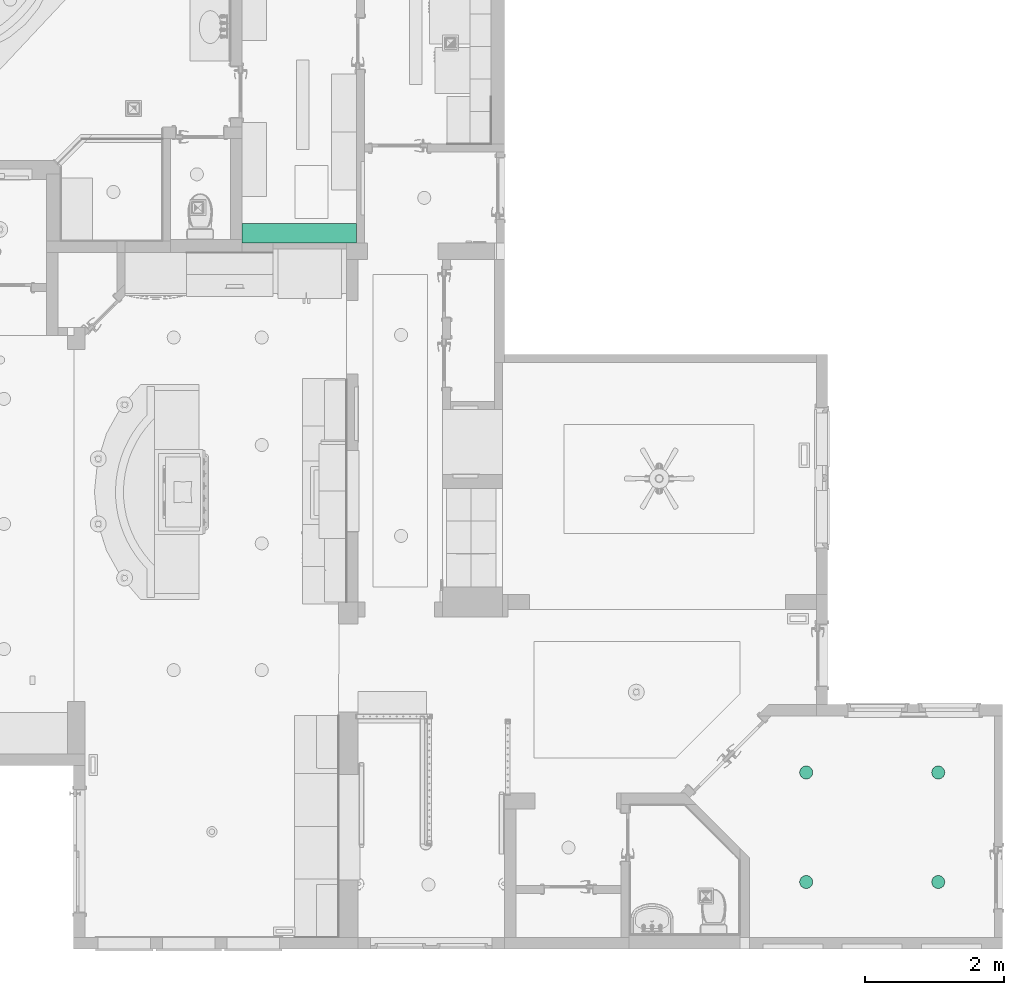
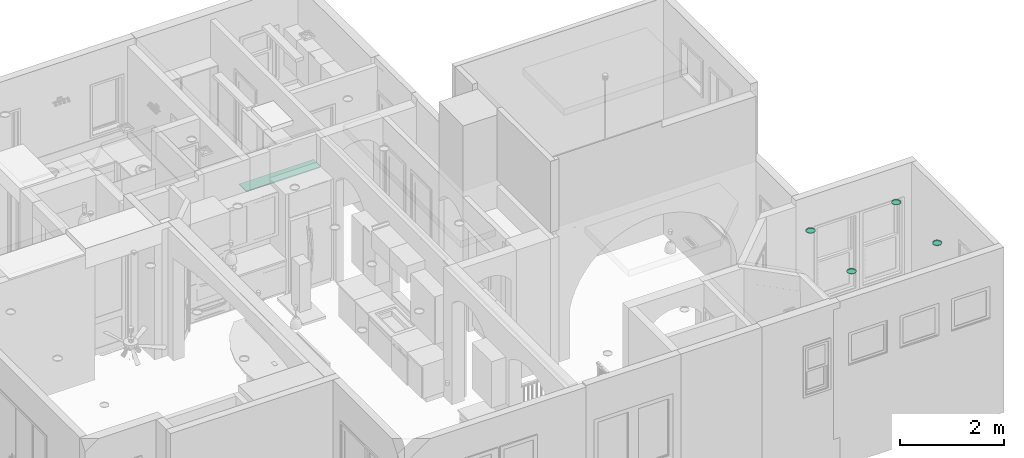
# One storey, part 51 of 77: 5 flow terminals.
"""IFC2X3 building model written with IfcOpenShell, lengths in inches."""

from ifc_helpers import new_model, entity, si_unit, converted_unit, derived_unit, money_unit, direction, frame, origin_with_axes, place, context, subcontext, project, spatial, open_shell, faceted_brep, surface_model, source, transform, mapped, type_object, element, save


model = new_model("IFC2X3")

# Units and contexts
model_context = context("Model", 3, precision=0.000393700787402, world=origin_with_axes(), true_north=direction((0.0, 1.0)))
body_context = subcontext(model_context, "Body", "Model", "MODEL_VIEW")
ifc_project = project(units=[converted_unit("LENGTHUNIT", "INCH", entity("IfcPositiveLengthMeasure", 0.0254), si_unit("LENGTHUNIT", "METRE"), dimensions=[1, 0, 0, 0, 0, 0, 0]), converted_unit("AREAUNIT", "SQUARE_FOOT", entity("IfcPositiveLengthMeasure", 0.09290304), si_unit("AREAUNIT", "SQUARE_METRE"), dimensions=[2, 0, 0, 0, 0, 0, 0]), si_unit("PLANEANGLEUNIT", "RADIAN"), si_unit("SOLIDANGLEUNIT", "STERADIAN"), money_unit("USD"), converted_unit("TIMEUNIT", "Year", entity("IfcTimeMeasure", 31556926.0), si_unit("TIMEUNIT", "SECOND"), dimensions=[0, 0, 1, 0, 0, 0, 0]), si_unit("MASSUNIT", "GRAM", prefix="KILO"), si_unit("THERMODYNAMICTEMPERATUREUNIT", "DEGREE_CELSIUS"), si_unit("LUMINOUSINTENSITYUNIT", "LUMEN"), si_unit("ENERGYUNIT", "JOULE", prefix="MEGA"), derived_unit("THERMALCONDUCTANCEUNIT", [(si_unit("POWERUNIT", "WATT"), 1), (si_unit("LENGTHUNIT", "METRE"), -1), (si_unit("THERMODYNAMICTEMPERATUREUNIT", "KELVIN"), -1)]), derived_unit("SPECIFICHEATCAPACITYUNIT", [(si_unit("ENERGYUNIT", "JOULE"), 1), (si_unit("MASSUNIT", "GRAM", prefix="KILO"), -1), (si_unit("THERMODYNAMICTEMPERATUREUNIT", "KELVIN"), -1)]), derived_unit("MASSDENSITYUNIT", [(si_unit("MASSUNIT", "GRAM", prefix="KILO"), 1), (si_unit("VOLUMEUNIT", "CUBIC_METRE"), -1)])], contexts=[model_context])

# Site, building, storey
site_placement = place(None, origin_with_axes())
site = spatial("IfcSite", under=ifc_project, at=site_placement, Name="Site", CompositionType="ELEMENT")
building_placement = place(site_placement, origin_with_axes())
building = spatial("IfcBuilding", under=site, at=building_placement, Name="Building", CompositionType="ELEMENT")
storey_placement = place(building_placement, frame((0.0, 0.0, 127.952755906), z_axis=(0.0, 0.0, 1.0), x_axis=(1.0, 0.0, 0.0)))
storey = spatial("IfcBuildingStorey", under=building, at=storey_placement, Name="Second Floor", CompositionType="ELEMENT", Elevation=127.953)

# Flow terminals
light_fixture_type = type_object("IfcLightFixtureType", Name="Recessed Spot 25", PredefinedType="NOTDEFINED")
shared_shape = source(origin_with_axes(), body_context, "Body", "SurfaceModel", [
    faceted_brep([(3.74015748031, 0.0, -0.590551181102), (3.51459838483, 1.27920919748, -0.590551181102), (3.51459838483, 1.27920919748, 0.0), (3.74015748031, 0.0, 0.0), (3.51459838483, -1.27920919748, -0.590551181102), (2.86512685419, -2.40412688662, -0.590551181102), (1.87007874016, -3.23907139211, -0.590551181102), (0.649471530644, -3.6833360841, -0.590551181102), (-0.649471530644, -3.6833360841, -0.590551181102), (-1.87007874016, -3.23907139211, -0.590551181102), (-2.86512685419, -2.40412688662, -0.590551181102), (-3.51459838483, -1.27920919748, -0.590551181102), (-3.74015748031, 0.0, -0.590551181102), (-3.51459838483, 1.27920919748, -0.590551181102), (-2.86512685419, 2.40412688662, -0.590551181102), (-1.87007874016, 3.23907139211, -0.590551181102), (-0.649471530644, 3.6833360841, -0.590551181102), (0.649471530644, 3.6833360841, -0.590551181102), (1.87007874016, 3.23907139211, -0.590551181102), (2.86512685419, 2.40412688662, -0.590551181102), (3.14960629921, 0.0, -0.590551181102), (2.95966179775, 1.07722879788, -0.590551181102), (2.41273840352, 2.02452790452, -0.590551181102), (1.57480314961, 2.72763906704, -0.590551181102), (0.546923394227, 3.1017567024, -0.590551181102), (-0.546923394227, 3.1017567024, -0.590551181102), (-1.57480314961, 2.72763906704, -0.590551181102), (-2.41273840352, 2.02452790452, -0.590551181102), (-2.95966179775, 1.07722879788, -0.590551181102), (-3.14960629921, 0.0, -0.590551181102), (-2.95966179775, -1.07722879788, -0.590551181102), (-2.41273840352, -2.02452790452, -0.590551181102), (-1.57480314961, -2.72763906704, -0.590551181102), (-0.546923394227, -3.1017567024, -0.590551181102), (0.546923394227, -3.1017567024, -0.590551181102), (1.57480314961, -2.72763906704, -0.590551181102), (2.41273840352, -2.02452790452, -0.590551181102), (2.95966179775, -1.07722879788, -0.590551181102), (2.86512685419, 2.40412688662, 0.0), (1.87007874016, 3.23907139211, 0.0), (0.649471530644, 3.6833360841, 0.0), (-0.649471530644, 3.6833360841, 0.0), (-1.87007874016, 3.23907139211, 0.0), (-2.86512685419, 2.40412688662, 0.0), (-3.51459838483, 1.27920919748, 0.0), (-3.74015748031, 0.0, 0.0), (-3.51459838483, -1.27920919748, 0.0), (-2.86512685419, -2.40412688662, 0.0), (-1.87007874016, -3.23907139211, 0.0), (-0.649471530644, -3.6833360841, 0.0), (0.649471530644, -3.6833360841, 0.0), (1.87007874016, -3.23907139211, 0.0), (2.86512685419, -2.40412688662, 0.0), (3.51459838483, -1.27920919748, 0.0), (3.14960629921, 0.0, 0.0), (2.95966179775, -1.07722879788, 0.0), (2.41273840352, -2.02452790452, 0.0), (1.57480314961, -2.72763906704, 0.0), (0.546923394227, -3.1017567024, 0.0), (-0.546923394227, -3.1017567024, 0.0), (-1.57480314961, -2.72763906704, 0.0), (-2.41273840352, -2.02452790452, 0.0), (-2.95966179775, -1.07722879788, 0.0), (-3.14960629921, 0.0, 0.0), (-2.95966179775, 1.07722879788, 0.0), (-2.41273840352, 2.02452790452, 0.0), (-1.57480314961, 2.72763906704, 0.0), (-0.546923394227, 3.1017567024, 0.0), (0.546923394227, 3.1017567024, 0.0), (1.57480314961, 2.72763906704, 0.0), (2.41273840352, 2.02452790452, 0.0), (2.95966179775, 1.07722879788, 0.0)], [[[0, 1, 2, 3]], [[0, 4, 5, 6, 7, 8, 9, 10, 11, 12, 13, 14, 15, 16, 17, 18, 19, 1], [20, 21, 22, 23, 24, 25, 26, 27, 28, 29, 30, 31, 32, 33, 34, 35, 36, 37]], [[1, 19, 38, 2]], [[3, 2, 38, 39, 40, 41, 42, 43, 44, 45, 46, 47, 48, 49, 50, 51, 52, 53], [54, 55, 56, 57, 58, 59, 60, 61, 62, 63, 64, 65, 66, 67, 68, 69, 70, 71]], [[4, 0, 3, 53]], [[5, 4, 53, 52]], [[6, 5, 52, 51]], [[7, 6, 51, 50]], [[8, 7, 50, 49]], [[9, 8, 49, 48]], [[10, 9, 48, 47]], [[11, 10, 47, 46]], [[12, 11, 46, 45]], [[13, 12, 45, 44]], [[14, 13, 44, 43]], [[15, 14, 43, 42]], [[16, 15, 42, 41]], [[17, 16, 41, 40]], [[18, 17, 40, 39]], [[19, 18, 39, 38]], [[21, 20, 54, 71]], [[22, 21, 71, 70]], [[23, 22, 70, 69]], [[24, 23, 69, 68]], [[25, 24, 68, 67]], [[26, 25, 67, 66]], [[27, 26, 66, 65]], [[28, 27, 65, 64]], [[29, 28, 64, 63]], [[30, 29, 63, 62]], [[31, 30, 62, 61]], [[32, 31, 61, 60]], [[33, 32, 60, 59]], [[34, 33, 59, 58]], [[35, 34, 58, 57]], [[36, 35, 57, 56]], [[37, 36, 56, 55]], [[20, 37, 55, 54]]]),
    surface_model("IfcShellBasedSurfaceModel", [(3.14960629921, 0.0, -0.527559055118), (2.95966179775, -1.07722879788, -0.527559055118), (2.41273840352, -2.02452790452, -0.527559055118), (1.57480314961, -2.72763906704, -0.527559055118), (0.546923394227, -3.1017567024, -0.527559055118), (-0.546923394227, -3.1017567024, -0.527559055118), (-1.57480314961, -2.72763906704, -0.527559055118), (-2.41273840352, -2.02452790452, -0.527559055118), (-2.95966179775, -1.07722879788, -0.527559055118), (-3.14960629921, 0.0, -0.527559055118), (-2.95966179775, 1.07722879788, -0.527559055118), (-2.41273840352, 2.02452790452, -0.527559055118), (-1.57480314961, 2.72763906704, -0.527559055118), (-0.546923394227, 3.1017567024, -0.527559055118), (0.546923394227, 3.1017567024, -0.527559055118), (1.57480314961, 2.72763906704, -0.527559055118), (2.41273840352, 2.02452790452, -0.527559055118), (2.95966179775, 1.07722879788, -0.527559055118)], [open_shell([[[0, 1, 2, 3, 4, 5, 6, 7, 8, 9, 10, 11, 12, 13, 14, 15, 16, 17]]])]),
])
for number, where, z_axis, x_axis, name in (
    (1, (973.503654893, 113.091473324, 120.094488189), (0.0, 0.0, 1.0), (1.0, 0.0, 0.0), "L-03"),
    (2, (898.503654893, 113.091473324, 120.094488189), (0.0, 0.0, 1.0), (1.0, 0.0, 0.0), "L-03"),
    (3, (973.503654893, 50.8867489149, 120.094488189), (0.0, 0.0, 1.0), (1.0, 0.0, 0.0), "L-03"),
    (4, (898.503654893, 50.8867489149, 120.094488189), (0.0, 0.0, 1.0), (1.0, 0.0, 0.0), "L-03"),
):
    element("IfcFlowTerminal", number, at=place(storey_placement, frame(where, z_axis=z_axis, x_axis=x_axis)), inside=storey, type_object=light_fixture_type, Name=name, context=body_context, shape_type="MappedRepresentation", body=[
        mapped(shared_shape, transform((0.0, 0.0, 0.0))),
    ])
electric_appliance_type = type_object("IfcElectricApplianceType", Name="Countertop 25", PredefinedType="NOTDEFINED")
flow_terminal_placement = place(storey_placement, frame((577.989643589, 413.908081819, 0.0), z_axis=(0.0, 0.0, 1.0), x_axis=(-1.0, 0.0, 0.0)))
element("IfcFlowTerminal", 5, at=flow_terminal_placement, inside=storey, type_object=electric_appliance_type, Name="OBJ-97", context=body_context, shape_type="Brep", body=[
    faceted_brep([(0.0, 0.0, 85.0393700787), (0.0, 0.0, 86.0236220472), (0.0, -11.0236220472, 86.0236220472), (0.0, -11.0236220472, 85.0393700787), (-64.9606299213, 0.0, 85.0393700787), (-64.9606299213, 0.0, 86.0236220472), (-64.9606299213, -11.0236220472, 86.0236220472), (-64.9606299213, -11.0236220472, 85.0393700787)], [[[0, 1, 2, 3]], [[4, 5, 1, 0]], [[1, 5, 6, 2]], [[3, 2, 6, 7]], [[0, 3, 7, 4]], [[7, 6, 5, 4]]]),
])

save(model, "model.ifc")
